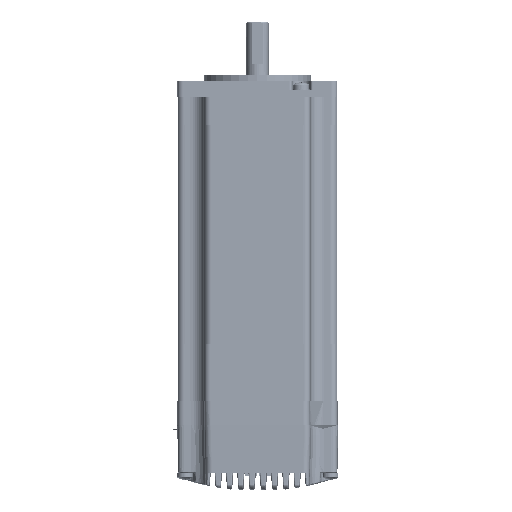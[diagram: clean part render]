
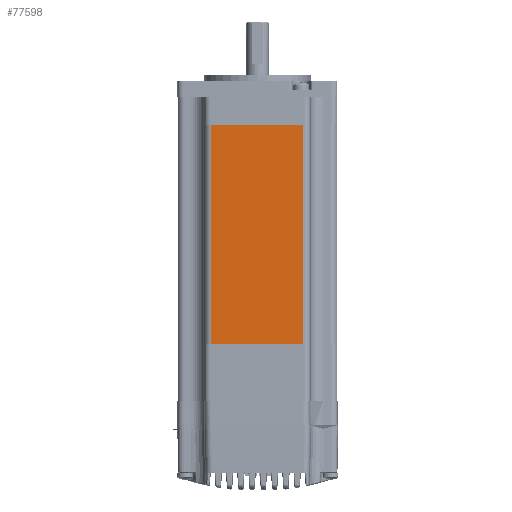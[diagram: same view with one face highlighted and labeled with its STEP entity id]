
A CAD part, top view. The second image highlights one B-rep face of the part: STEP entity #77598.
In plain terms, the highlighted planar face has unit normal (-0.003, 0, 1) as drawn and (0, 0, -1) by its records, which use the part's own axes.
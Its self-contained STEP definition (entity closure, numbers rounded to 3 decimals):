
#74216=DIRECTION('',(0.,-1.,0.));
#74217=VECTOR('',#74216,78.);
#74218=CARTESIAN_POINT('',(-16.5,79.,-28.5));
#74219=LINE('',#74218,#74217);
#74224=DIRECTION('',(-1.,0.,0.));
#74225=VECTOR('',#74224,33.);
#74226=CARTESIAN_POINT('',(16.5,1.,-28.5));
#74227=LINE('',#74226,#74225);
#74228=DIRECTION('',(1.,0.,0.));
#74229=VECTOR('',#74228,33.);
#74230=CARTESIAN_POINT('',(-16.5,79.,-28.5));
#74231=LINE('',#74230,#74229);
#74236=DIRECTION('',(0.,1.,0.));
#74237=VECTOR('',#74236,78.);
#74238=CARTESIAN_POINT('',(16.5,1.,-28.5));
#74239=LINE('',#74238,#74237);
#76152=CARTESIAN_POINT('',(-16.5,79.,-28.5));
#76153=CARTESIAN_POINT('',(-16.5,1.,-28.5));
#76154=VERTEX_POINT('',#76152);
#76155=VERTEX_POINT('',#76153);
#76441=CARTESIAN_POINT('',(16.5,79.,-28.5));
#76443=VERTEX_POINT('',#76441);
#76820=CARTESIAN_POINT('',(16.5,1.,-28.5));
#76822=VERTEX_POINT('',#76820);
#77585=CARTESIAN_POINT('',(-16.5,80.,-28.5));
#77586=DIRECTION('',(0.,0.,1.));
#77587=DIRECTION('',(1.,0.,0.));
#77588=AXIS2_PLACEMENT_3D('',#77585,#77586,#77587);
#77589=PLANE('',#77588);
#77590=ORIENTED_EDGE('',*,*,#77480,.F.);
#77592=ORIENTED_EDGE('',*,*,#77591,.T.);
#77594=ORIENTED_EDGE('',*,*,#77593,.F.);
#77595=ORIENTED_EDGE('',*,*,#77577,.T.);
#77596=EDGE_LOOP('',(#77590,#77592,#77594,#77595));
#77597=FACE_OUTER_BOUND('',#77596,.F.);
#77598=ADVANCED_FACE('',(#77597),#77589,.F.);
#77480=EDGE_CURVE('',#76822,#76155,#74227,.T.);
#77577=EDGE_CURVE('',#76154,#76155,#74219,.T.);
#77591=EDGE_CURVE('',#76822,#76443,#74239,.T.);
#77593=EDGE_CURVE('',#76154,#76443,#74231,.T.);
